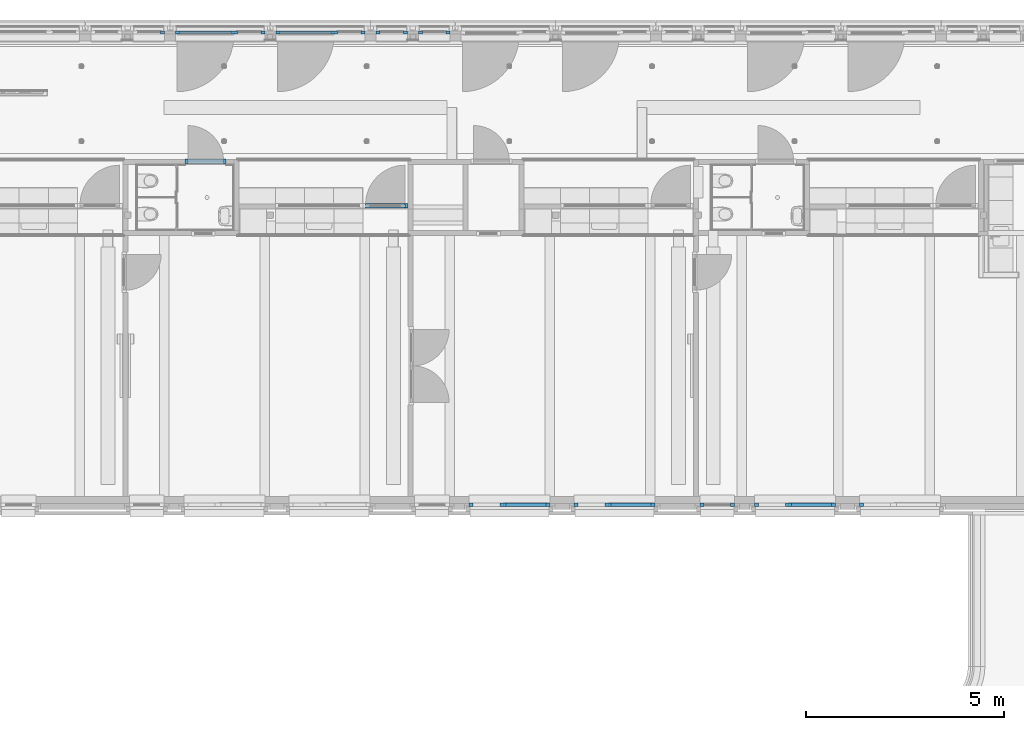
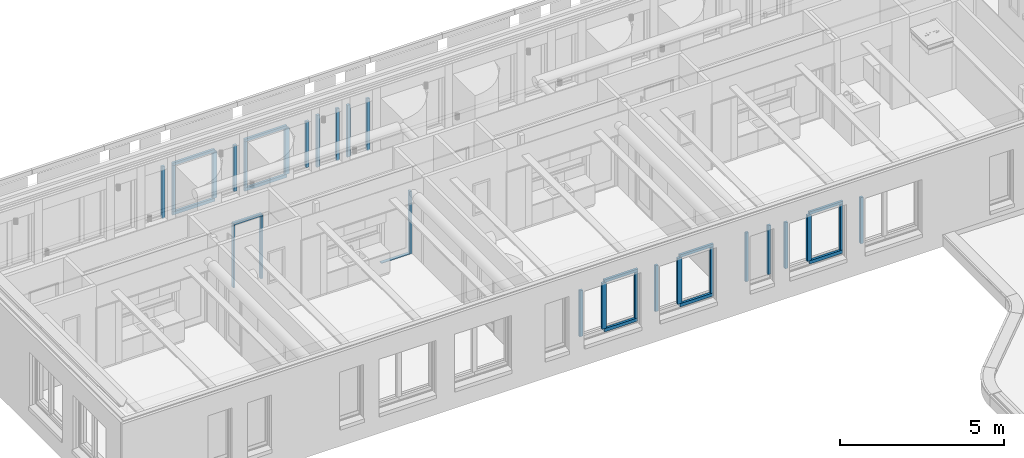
# One storey, part 15 of 128: 38 members, 12 elements without a shape of their own.
"""IFC2X3 building model written with IfcOpenShell, lengths in millimetres."""

from ifc_helpers import new_model, entity, si_unit, converted_unit, derived_unit, direction, frame, frame_2d, origin, origin_2d_with_axis, place, context, subcontext, project, spatial, rectangle, extrude, source, transform, mapped, material, type_object, type_shapes, element, aggregate, save


model = new_model("IFC2X3")

# Units and contexts
model_context = context("Model", 3, precision=0.01, world=origin(), true_north=direction((6.123031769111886e-17, 1.0)))
body_context = subcontext(model_context, "Body", "Model", "MODEL_VIEW")
ifc_project = project(units=[si_unit("LENGTHUNIT", "METRE", prefix="MILLI"), si_unit("AREAUNIT", "SQUARE_METRE"), si_unit("VOLUMEUNIT", "CUBIC_METRE"), converted_unit("PLANEANGLEUNIT", "DEGREE", entity("IfcRatioMeasure", 0.017453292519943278), si_unit("PLANEANGLEUNIT", "RADIAN"), dimensions=[0, 0, 0, 0, 0, 0, 0]), si_unit("MASSUNIT", "GRAM", prefix="KILO"), derived_unit("MASSDENSITYUNIT", [(si_unit("MASSUNIT", "GRAM", prefix="KILO"), 1), (si_unit("LENGTHUNIT", "METRE"), -3)]), derived_unit("IONCONCENTRATIONUNIT", [(si_unit("MASSUNIT", "GRAM", prefix="KILO"), 1), (si_unit("LENGTHUNIT", "METRE"), -3)]), derived_unit("MOMENTOFINERTIAUNIT", [(si_unit("LENGTHUNIT", "METRE"), 4)]), si_unit("TIMEUNIT", "SECOND"), si_unit("FREQUENCYUNIT", "HERTZ"), si_unit("THERMODYNAMICTEMPERATUREUNIT", "DEGREE_CELSIUS"), derived_unit("THERMALTRANSMITTANCEUNIT", [(si_unit("MASSUNIT", "GRAM", prefix="KILO"), 1), (si_unit("THERMODYNAMICTEMPERATUREUNIT", "KELVIN"), -1), (si_unit("TIMEUNIT", "SECOND"), -3)]), derived_unit("THERMALCONDUCTANCEUNIT", [(si_unit("MASSUNIT", "GRAM", prefix="KILO"), 1), (si_unit("THERMODYNAMICTEMPERATUREUNIT", "KELVIN"), -1), (si_unit("TIMEUNIT", "SECOND"), -3), (si_unit("LENGTHUNIT", "METRE"), 1)]), derived_unit("VOLUMETRICFLOWRATEUNIT", [(si_unit("LENGTHUNIT", "METRE"), 3), (si_unit("TIMEUNIT", "SECOND"), -1)]), derived_unit("MASSFLOWRATEUNIT", [(si_unit("MASSUNIT", "GRAM", prefix="KILO"), 1), (si_unit("TIMEUNIT", "SECOND"), -1)]), derived_unit("ROTATIONALFREQUENCYUNIT", [(si_unit("TIMEUNIT", "SECOND"), -1)]), si_unit("ELECTRICCURRENTUNIT", "AMPERE"), si_unit("ELECTRICVOLTAGEUNIT", "VOLT"), si_unit("POWERUNIT", "WATT"), si_unit("FORCEUNIT", "NEWTON", prefix="KILO"), si_unit("ILLUMINANCEUNIT", "LUX"), si_unit("LUMINOUSFLUXUNIT", "LUMEN"), si_unit("LUMINOUSINTENSITYUNIT", "CANDELA"), derived_unit("USERDEFINED", [(si_unit("MASSUNIT", "GRAM", prefix="KILO"), -1), (si_unit("LENGTHUNIT", "METRE"), -2), (si_unit("TIMEUNIT", "SECOND"), 3), (si_unit("LUMINOUSFLUXUNIT", "LUMEN"), 1)]), derived_unit("USERDEFINED", [(si_unit("MASSUNIT", "GRAM", prefix="KILO"), 1), (si_unit("TIMEUNIT", "SECOND"), -3), (si_unit("LENGTHUNIT", "METRE"), 3), (si_unit("ELECTRICCURRENTUNIT", "AMPERE"), -2)]), derived_unit("SOUNDPOWERUNIT", [(si_unit("MASSUNIT", "GRAM", prefix="KILO"), 1), (si_unit("TIMEUNIT", "SECOND"), -3), (si_unit("LENGTHUNIT", "METRE"), 2)]), derived_unit("SOUNDPRESSUREUNIT", [(si_unit("MASSUNIT", "GRAM", prefix="KILO"), 1), (si_unit("LENGTHUNIT", "METRE"), -1), (si_unit("TIMEUNIT", "SECOND"), -2)]), derived_unit("LINEARVELOCITYUNIT", [(si_unit("LENGTHUNIT", "METRE"), 1), (si_unit("TIMEUNIT", "SECOND"), -1)]), si_unit("PRESSUREUNIT", "PASCAL"), derived_unit("USERDEFINED", [(si_unit("MASSUNIT", "GRAM", prefix="KILO"), 1), (si_unit("LENGTHUNIT", "METRE"), -2), (si_unit("TIMEUNIT", "SECOND"), -2)]), derived_unit("LINEARFORCEUNIT", [(si_unit("MASSUNIT", "GRAM", prefix="KILO"), 1), (si_unit("TIMEUNIT", "SECOND"), -2)]), derived_unit("PLANARFORCEUNIT", [(si_unit("MASSUNIT", "GRAM", prefix="KILO"), 1), (si_unit("LENGTHUNIT", "METRE"), -1), (si_unit("TIMEUNIT", "SECOND"), -2)]), derived_unit("SPECIFICHEATCAPACITYUNIT", [(si_unit("THERMODYNAMICTEMPERATUREUNIT", "KELVIN"), -1), (si_unit("LENGTHUNIT", "METRE"), 2), (si_unit("TIMEUNIT", "SECOND"), -2)]), derived_unit("HEATINGVALUEUNIT", [(si_unit("LENGTHUNIT", "METRE"), 2), (si_unit("TIMEUNIT", "SECOND"), -2)]), derived_unit("VAPORPERMEABILITYUNIT", [(si_unit("LENGTHUNIT", "METRE"), -1), (si_unit("TIMEUNIT", "SECOND"), 1)]), derived_unit("DYNAMICVISCOSITYUNIT", [(si_unit("MASSUNIT", "GRAM", prefix="KILO"), 1), (si_unit("TIMEUNIT", "SECOND"), -1), (si_unit("LENGTHUNIT", "METRE"), -1)]), derived_unit("THERMALEXPANSIONCOEFFICIENTUNIT", [(si_unit("THERMODYNAMICTEMPERATUREUNIT", "KELVIN"), -1)]), derived_unit("MODULUSOFELASTICITYUNIT", [(si_unit("MASSUNIT", "GRAM", prefix="KILO"), 1), (si_unit("LENGTHUNIT", "METRE"), -1), (si_unit("TIMEUNIT", "SECOND"), -2)]), derived_unit("ISOTHERMALMOISTURECAPACITYUNIT", [(si_unit("LENGTHUNIT", "METRE"), 3), (si_unit("MASSUNIT", "GRAM", prefix="KILO"), -1)]), derived_unit("MOISTUREDIFFUSIVITYUNIT", [(si_unit("TIMEUNIT", "SECOND"), -1), (si_unit("LENGTHUNIT", "METRE"), 2)])], contexts=[model_context])

# Site, building, storey
site_placement = place(None, frame((0.0, 300.0, 0.0)))
site = spatial("IfcSite", under=ifc_project, at=site_placement, Name="<Kadastrale nummers>", CompositionType="ELEMENT")
building_placement = place(site_placement, origin())
building = spatial("IfcBuilding", under=site, at=building_placement, CompositionType="ELEMENT")
storey_placement = place(building_placement, frame((0.0, 0.0, 3560.0000331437)))
storey = spatial("IfcBuildingStorey", under=building, at=storey_placement, Name="01 eerste verdieping", CompositionType="ELEMENT", Elevation=3560.0000331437)

# Curtain wall, member
curtain_wall_type_1 = type_object("IfcCurtainWallType", Name="Curtain Wall:Merk H09", PredefinedType="NOTDEFINED")
curtain_wall_1_placement = place(storey_placement, frame((0.0, 0.0, -3560.0000331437)))
curtain_wall_1 = element("IfcCurtainWall", 1, at=curtain_wall_1_placement, inside=storey, type_object=curtain_wall_type_1, Name="Curtain Wall:Merk H09", ObjectType="Curtain Wall:Merk H09")
ifc_material_1 = material(Name="ISR_HPL")
member_type_1 = type_object("IfcMemberType", Name="Rectangular Mullion:31_CWM_067x114", PredefinedType="MULLION", material=ifc_material_1)
shared_shape_1 = source(origin(), body_context, "Body", "SweptSolid", [
    extrude(rectangle(XDim=113.99999999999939, YDim=67.0, at=origin_2d_with_axis()), frame((-33.5, -57.0, -2323.0), z_axis=(0.0, 0.0, 1.0), x_axis=(0.0, -1.0, 0.0)), (0.0, 0.0, 1.0), 2323.0),
])
type_shapes(member_type_1, [shared_shape_1])
member_1_placement = place(curtain_wall_1_placement, frame((17270.0, 45476.0, 3650.0000350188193), z_axis=(0.0, 0.0, -1.0), x_axis=(1.0, 0.0, 0.0)))
member_1 = element("IfcMember", 2, at=member_1_placement, type_object=member_type_1, material=ifc_material_1, Name="Rectangular Mullion:31_CWM_067x114", ObjectType="Rectangular Mullion:31_CWM_067x114", context=body_context, shape_type="MappedRepresentation", body=[
    mapped(shared_shape_1, transform((0.0, 0.0, 0.0), scale=1.0)),
])

# Curtain wall, members
curtain_wall_type_2 = type_object("IfcCurtainWallType", Name="Curtain Wall:Merk H01", PredefinedType="NOTDEFINED")
curtain_wall_2_placement = place(storey_placement, frame((0.0, 0.0, -3560.0000331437)))
curtain_wall_2 = element("IfcCurtainWall", 3, at=curtain_wall_2_placement, inside=storey, type_object=curtain_wall_type_2, Name="Curtain Wall:Merk H01", ObjectType="Curtain Wall:Merk H01")
member_type_2 = type_object("IfcMemberType", Name="Rectangular Mullion:31_CWM_067x114", PredefinedType="MULLION", material=ifc_material_1)
shared_shape_2 = source(origin(), body_context, "Body", "SweptSolid", [
    extrude(rectangle(XDim=113.99999999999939, YDim=67.0, at=origin_2d_with_axis()), frame((-33.5, 57.0, -2323.0), z_axis=(0.0, 0.0, 1.0), x_axis=(0.0, -1.0, 0.0)), (0.0, 0.0, 1.0), 2323.0),
])
type_shapes(member_type_2, [shared_shape_2])
member_2_placement = place(curtain_wall_2_placement, frame((11652.001376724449, 46606.0, 3650.00003501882), z_axis=(0.0, 0.0, -1.0), x_axis=(-1.0, 0.0, 0.0)))
member_2 = element("IfcMember", 4, at=member_2_placement, type_object=member_type_2, material=ifc_material_1, Name="Rectangular Mullion:31_CWM_067x114", ObjectType="Rectangular Mullion:31_CWM_067x114", context=body_context, shape_type="MappedRepresentation", body=[
    mapped(shared_shape_2, transform((0.0, 0.0, 0.0), scale=1.0)),
])
member_type_3 = type_object("IfcMemberType", Name="Rectangular Mullion:31_CWM_067x114", PredefinedType="MULLION", material=ifc_material_1)
shared_shape_3 = source(origin(), body_context, "Body", "SweptSolid", [
    extrude(rectangle(XDim=113.99999999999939, YDim=67.0, at=origin_2d_with_axis()), frame((-33.5, 57.0, -2323.0), z_axis=(0.0, 0.0, 1.0), x_axis=(0.0, -1.0, 0.0)), (0.0, 0.0, 1.0), 2323.0),
])
type_shapes(member_type_3, [shared_shape_3])
member_3_placement = place(curtain_wall_2_placement, frame((12686.001376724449, 46606.0, 5973.0000331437)))
member_3 = element("IfcMember", 5, at=member_3_placement, type_object=member_type_3, material=ifc_material_1, Name="Rectangular Mullion:31_CWM_067x114", ObjectType="Rectangular Mullion:31_CWM_067x114", context=body_context, shape_type="MappedRepresentation", body=[
    mapped(shared_shape_3, transform((0.0, 0.0, 0.0), scale=1.0)),
])
member_type_4 = type_object("IfcMemberType", Name="Rectangular Mullion:31_CWM_067x114", PredefinedType="MULLION", material=ifc_material_1)
shared_shape_4 = source(origin(), body_context, "Body", "SweptSolid", [
    extrude(rectangle(XDim=113.99999999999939, YDim=67.0, at=origin_2d_with_axis()), frame((-33.5, 57.0, -1034.0), z_axis=(0.0, 0.0, 1.0), x_axis=(0.0, -1.0, 0.0)), (0.0, 0.0, 1.0), 1033.9999999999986),
])
type_shapes(member_type_4, [shared_shape_4])
member_4_placement = place(curtain_wall_2_placement, frame((11652.001376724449, 46606.0, 6040.0000331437), z_axis=(-1.0, 0.0, 0.0), x_axis=(0.0, 0.0, 1.0)))
member_4 = element("IfcMember", 6, at=member_4_placement, type_object=member_type_4, material=ifc_material_1, Name="Rectangular Mullion:31_CWM_067x114", ObjectType="Rectangular Mullion:31_CWM_067x114", context=body_context, shape_type="MappedRepresentation", body=[
    mapped(shared_shape_4, transform((0.0, 0.0, 0.0), scale=1.0)),
])
aggregate(curtain_wall_2, [member_4, member_2, member_3])

# Member
ifc_material_2 = material(Name="ISR_Kunststof_grijs")
member_type_5 = type_object("IfcMemberType", Name="Rectangular Mullion:31_CWM_020x114", PredefinedType="MULLION", material=ifc_material_2)
shared_shape_5 = source(origin(), body_context, "Body", "SweptSolid", [
    extrude(rectangle(XDim=113.9999999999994, YDim=20.0, at=frame_2d((1.0658141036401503e-14, 0.0), x_axis=(1.0, 0.0))), frame((-10.0, -57.0, -1000.0), z_axis=(0.0, 0.0, 1.0), x_axis=(0.0, -1.0, 0.0)), (0.0, 0.0, 1.0), 999.999999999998),
])
type_shapes(member_type_5, [shared_shape_5])
member_5_placement = place(curtain_wall_1_placement, frame((16203.0, 45476.0, 3650.0000350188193), z_axis=(-1.0, 0.0, 0.0), x_axis=(0.0, 0.0, -1.0)))
member_5 = element("IfcMember", 7, at=member_5_placement, type_object=member_type_5, material=ifc_material_2, Name="Rectangular Mullion:31_CWM_020x114", ObjectType="Rectangular Mullion:31_CWM_020x114", context=body_context, shape_type="MappedRepresentation", body=[
    mapped(shared_shape_5, transform((0.0, 0.0, 0.0), scale=1.0)),
])

aggregate(curtain_wall_1, [member_5, member_1])

# Curtain wall, members
curtain_wall_type_3 = type_object("IfcCurtainWallType", Name="Curtain Wall:K_28", PredefinedType="NOTDEFINED")
curtain_wall_3_placement = place(storey_placement, frame((0.0, 0.0, -3560.0000331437)))
curtain_wall_3 = element("IfcCurtainWall", 8, at=curtain_wall_3_placement, inside=storey, type_object=curtain_wall_type_3, Name="Curtain Wall:K_28", ObjectType="Curtain Wall:K_28")
ifc_material_3 = material(Name="ISR_Kunststof_RAL7006")
member_type_6 = type_object("IfcMemberType", Name="Rectangular Mullion:100x83 Gealan Kubus", PredefinedType="MULLION", material=ifc_material_3)
shared_shape_6 = source(origin(), body_context, "Body", "SweptSolid", [
    extrude(rectangle(XDim=83.0, YDim=100.0, at=origin_2d_with_axis()), frame((-50.0, 41.5, -1810.0), z_axis=(0.0, 0.0, 1.0), x_axis=(0.0, -1.0, 0.0)), (0.0, 0.0, 1.0), 1810.0),
])
type_shapes(member_type_6, [shared_shape_6])
member_6_placement = place(curtain_wall_3_placement, frame((25520.0, 38032.0, 4580.000035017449), z_axis=(0.0, 0.0, -1.0), x_axis=(1.0, 0.0, 0.0)))
member_6 = element("IfcMember", 9, at=member_6_placement, type_object=member_type_6, material=ifc_material_3, Name="Rectangular Mullion:100x83 Gealan Kubus", ObjectType="Rectangular Mullion:100x83 Gealan Kubus", context=body_context, shape_type="MappedRepresentation", body=[
    mapped(shared_shape_6, transform((0.0, 0.0, 0.0), scale=1.0)),
])
member_type_7 = type_object("IfcMemberType", Name="Rectangular Mullion:100x83 Gealan Kubus", PredefinedType="MULLION", material=ifc_material_3)
shared_shape_7 = source(origin(), body_context, "Body", "SweptSolid", [
    extrude(rectangle(XDim=83.0, YDim=100.0, at=origin_2d_with_axis()), frame((-50.0, 41.5, -1810.0), z_axis=(0.0, 0.0, 1.0), x_axis=(0.0, -1.0, 0.0)), (0.0, 0.0, 1.0), 1810.0),
])
type_shapes(member_type_7, [shared_shape_7])
member_7_placement = place(curtain_wall_3_placement, frame((24640.0, 38032.0, 6390.00003501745), z_axis=(0.0, 0.0, 1.0), x_axis=(-1.0, 0.0, 0.0)))
member_7 = element("IfcMember", 10, at=member_7_placement, type_object=member_type_7, material=ifc_material_3, Name="Rectangular Mullion:100x83 Gealan Kubus", ObjectType="Rectangular Mullion:100x83 Gealan Kubus", context=body_context, shape_type="MappedRepresentation", body=[
    mapped(shared_shape_7, transform((0.0, 0.0, 0.0), scale=1.0)),
])
aggregate(curtain_wall_3, [member_6, member_7])

# Curtain wall, member
curtain_wall_type_4 = type_object("IfcCurtainWallType", Name="Curtain Wall:K_29", PredefinedType="NOTDEFINED")
curtain_wall_4_placement = place(storey_placement, frame((0.0, 0.0, -3560.0000331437)))
curtain_wall_4 = element("IfcCurtainWall", 11, at=curtain_wall_4_placement, inside=storey, type_object=curtain_wall_type_4, Name="Curtain Wall:K_29", ObjectType="Curtain Wall:K_29")
member_type_8 = type_object("IfcMemberType", Name="Rectangular Mullion:100x83 Gealan Kubus", PredefinedType="MULLION", material=ifc_material_3)
shared_shape_8 = source(origin(), body_context, "Body", "SweptSolid", [
    extrude(rectangle(XDim=83.0, YDim=100.0, at=origin_2d_with_axis()), frame((-50.0, 41.5, -1929.9999649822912), z_axis=(0.0, 0.0, 1.0), x_axis=(0.0, -1.0, 0.0)), (0.0, 0.0, 1.0), 1929.9999649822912),
])
type_shapes(member_type_8, [shared_shape_8])
member_8_placement = place(curtain_wall_4_placement, frame((17540.0, 49868.0, 4460.000035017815), z_axis=(0.0, 0.0, -1.0), x_axis=(-1.0, 0.0, 0.0)))
member_8 = element("IfcMember", 12, at=member_8_placement, type_object=member_type_8, material=ifc_material_3, Name="Rectangular Mullion:100x83 Gealan Kubus", ObjectType="Rectangular Mullion:100x83 Gealan Kubus", context=body_context, shape_type="MappedRepresentation", body=[
    mapped(shared_shape_8, transform((0.0, 0.0, 0.0), scale=1.0)),
])

curtain_wall_5_placement = place(storey_placement, frame((0.0, 0.0, -3560.0000331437)))
curtain_wall_5 = element("IfcCurtainWall", 13, at=curtain_wall_5_placement, inside=storey, type_object=curtain_wall_type_4, Name="Curtain Wall:K_29", ObjectType="Curtain Wall:K_29")
member_9_placement = place(curtain_wall_5_placement, frame((16470.0, 49868.0, 4460.000035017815), z_axis=(0.0, 0.0, -1.0), x_axis=(-1.0, 0.0, 0.0)))
member_9 = element("IfcMember", 14, at=member_9_placement, type_object=member_type_8, material=ifc_material_3, Name="Rectangular Mullion:100x83 Gealan Kubus", ObjectType="Rectangular Mullion:100x83 Gealan Kubus", context=body_context, shape_type="MappedRepresentation", body=[
    mapped(shared_shape_8, transform((0.0, 0.0, 0.0), scale=1.0)),
])

# Member
member_type_9 = type_object("IfcMemberType", Name="Rectangular Mullion:100x83 Gealan Kubus", PredefinedType="MULLION", material=ifc_material_3)
shared_shape_9 = source(origin(), body_context, "Body", "SweptSolid", [
    extrude(rectangle(XDim=83.0, YDim=100.0, at=origin_2d_with_axis()), frame((-50.0, 41.5, -1929.9999649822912), z_axis=(0.0, 0.0, 1.0), x_axis=(0.0, -1.0, 0.0)), (0.0, 0.0, 1.0), 1929.9999649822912),
])
type_shapes(member_type_9, [shared_shape_9])
member_10_placement = place(curtain_wall_4_placement, frame((18330.0, 49868.0, 6390.0)))
member_10 = element("IfcMember", 15, at=member_10_placement, type_object=member_type_9, material=ifc_material_3, Name="Rectangular Mullion:100x83 Gealan Kubus", ObjectType="Rectangular Mullion:100x83 Gealan Kubus", context=body_context, shape_type="MappedRepresentation", body=[
    mapped(shared_shape_9, transform((0.0, 0.0, 0.0), scale=1.0)),
])

aggregate(curtain_wall_4, [member_8, member_10])

member_11_placement = place(curtain_wall_5_placement, frame((17260.0, 49868.0, 6390.0)))
member_11 = element("IfcMember", 16, at=member_11_placement, type_object=member_type_9, material=ifc_material_3, Name="Rectangular Mullion:100x83 Gealan Kubus", ObjectType="Rectangular Mullion:100x83 Gealan Kubus", context=body_context, shape_type="MappedRepresentation", body=[
    mapped(shared_shape_9, transform((0.0, 0.0, 0.0), scale=1.0)),
])

aggregate(curtain_wall_5, [member_9, member_11])

# Curtain wall, member
curtain_wall_6_placement = place(storey_placement, frame((0.0, 0.0, -3560.0000331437)))
curtain_wall_6 = element("IfcCurtainWall", 17, at=curtain_wall_6_placement, inside=storey, type_object=curtain_wall_type_4, Name="Curtain Wall:K_29", ObjectType="Curtain Wall:K_29")
member_12_placement = place(curtain_wall_6_placement, frame((11130.0, 49868.0, 6390.0)))
member_12 = element("IfcMember", 18, at=member_12_placement, type_object=member_type_9, material=ifc_material_3, Name="Rectangular Mullion:100x83 Gealan Kubus", ObjectType="Rectangular Mullion:100x83 Gealan Kubus", context=body_context, shape_type="MappedRepresentation", body=[
    mapped(shared_shape_9, transform((0.0, 0.0, 0.0), scale=1.0)),
])
aggregate(curtain_wall_6, [member_12])

curtain_wall_type_5 = type_object("IfcCurtainWallType", Name="Curtain Wall:K_22", PredefinedType="NOTDEFINED")
curtain_wall_7_placement = place(storey_placement, frame((0.0, 0.0, -3560.0000331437)))
curtain_wall_7 = element("IfcCurtainWall", 19, at=curtain_wall_7_placement, inside=storey, type_object=curtain_wall_type_5, Name="Curtain Wall:K_22", ObjectType="Curtain Wall:K_22")
member_type_10 = type_object("IfcMemberType", Name="Rectangular Mullion:100x83 Gealan Kubus", PredefinedType="MULLION", material=ifc_material_3)
shared_shape_10 = source(origin(), body_context, "Body", "SweptSolid", [
    extrude(rectangle(XDim=83.0, YDim=100.0, at=origin_2d_with_axis()), frame((-50.0, 41.5, -1483.0), z_axis=(0.0, 0.0, 1.0), x_axis=(0.0, -1.0, 0.0)), (0.0, 0.0, 1.0), 1483.0000000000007),
])
type_shapes(member_type_10, [shared_shape_10])
member_13_placement = place(curtain_wall_7_placement, frame((13940.0, 49868.0, 6390.0), z_axis=(-1.0, 0.0, 0.0), x_axis=(0.0, 0.0, 1.0)))
member_13 = element("IfcMember", 20, at=member_13_placement, type_object=member_type_10, material=ifc_material_3, Name="Rectangular Mullion:100x83 Gealan Kubus", ObjectType="Rectangular Mullion:100x83 Gealan Kubus", context=body_context, shape_type="MappedRepresentation", body=[
    mapped(shared_shape_10, transform((0.0, 0.0, 0.0), scale=1.0)),
])

curtain_wall_8_placement = place(storey_placement, frame((0.0, 0.0, -3560.0000331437)))
curtain_wall_8 = element("IfcCurtainWall", 21, at=curtain_wall_8_placement, inside=storey, type_object=curtain_wall_type_5, Name="Curtain Wall:K_22", ObjectType="Curtain Wall:K_22")
member_14_placement = place(curtain_wall_8_placement, frame((11410.0, 49868.0, 6390.0), z_axis=(-1.0, 0.0, 0.0), x_axis=(0.0, 0.0, 1.0)))
member_14 = element("IfcMember", 22, at=member_14_placement, type_object=member_type_10, material=ifc_material_3, Name="Rectangular Mullion:100x83 Gealan Kubus", ObjectType="Rectangular Mullion:100x83 Gealan Kubus", context=body_context, shape_type="MappedRepresentation", body=[
    mapped(shared_shape_10, transform((0.0, 0.0, 0.0), scale=1.0)),
])

# Member
member_type_11 = type_object("IfcMemberType", Name="Rectangular Mullion:100x83 Gealan Kubus", PredefinedType="MULLION", material=ifc_material_3)
shared_shape_11 = source(origin(), body_context, "Body", "SweptSolid", [
    extrude(rectangle(XDim=82.99999999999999, YDim=100.0, at=origin_2d_with_axis()), frame((-50.0, 41.49999999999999, -1709.9999649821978), z_axis=(0.0, 0.0, 1.0), x_axis=(0.0, -1.0, 0.0)), (0.0, 0.0, 1.0), 1709.9999649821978),
])
type_shapes(member_type_11, [shared_shape_11])
member_15_placement = place(curtain_wall_7_placement, frame((13940.0, 49868.0, 4580.0000331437), z_axis=(0.0, 0.0, -1.0), x_axis=(-1.0, 0.0, 0.0)))
member_15 = element("IfcMember", 23, at=member_15_placement, type_object=member_type_11, material=ifc_material_3, Name="Rectangular Mullion:100x83 Gealan Kubus", ObjectType="Rectangular Mullion:100x83 Gealan Kubus", context=body_context, shape_type="MappedRepresentation", body=[
    mapped(shared_shape_11, transform((0.0, 0.0, 0.0), scale=1.0)),
])

member_16_placement = place(curtain_wall_8_placement, frame((11410.0, 49868.0, 4580.0000331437), z_axis=(0.0, 0.0, -1.0), x_axis=(-1.0, 0.0, 0.0)))
member_16 = element("IfcMember", 24, at=member_16_placement, type_object=member_type_11, material=ifc_material_3, Name="Rectangular Mullion:100x83 Gealan Kubus", ObjectType="Rectangular Mullion:100x83 Gealan Kubus", context=body_context, shape_type="MappedRepresentation", body=[
    mapped(shared_shape_11, transform((0.0, 0.0, 0.0), scale=1.0)),
])

# Curtain wall, member
curtain_wall_type_6 = type_object("IfcCurtainWallType", Name="Curtain Wall:K_24", PredefinedType="NOTDEFINED")
curtain_wall_9_placement = place(storey_placement, frame((0.0, 0.0, -3560.0000331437)))
curtain_wall_9 = element("IfcCurtainWall", 25, at=curtain_wall_9_placement, inside=storey, type_object=curtain_wall_type_6, Name="Curtain Wall:K_24", ObjectType="Curtain Wall:K_24")
member_17_placement = place(curtain_wall_9_placement, frame((23510.0, 38031.99862327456, 4580.000035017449), z_axis=(0.0, 0.0, -1.0), x_axis=(1.0, 0.0, 0.0)))
member_17 = element("IfcMember", 26, at=member_17_placement, type_object=member_type_11, material=ifc_material_3, Name="Rectangular Mullion:100x83 Gealan Kubus", ObjectType="Rectangular Mullion:100x83 Gealan Kubus", context=body_context, shape_type="MappedRepresentation", body=[
    mapped(shared_shape_11, transform((0.0, 0.0, 0.0), scale=1.0)),
])

curtain_wall_10_placement = place(storey_placement, frame((0.0, 0.0, -3560.0000331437)))
curtain_wall_10 = element("IfcCurtainWall", 27, at=curtain_wall_10_placement, inside=storey, type_object=curtain_wall_type_6, Name="Curtain Wall:K_24", ObjectType="Curtain Wall:K_24")
member_18_placement = place(curtain_wall_10_placement, frame((20860.0, 38031.99862327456, 4580.000035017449), z_axis=(0.0, 0.0, -1.0), x_axis=(1.0, 0.0, 0.0)))
member_18 = element("IfcMember", 28, at=member_18_placement, type_object=member_type_11, material=ifc_material_3, Name="Rectangular Mullion:100x83 Gealan Kubus", ObjectType="Rectangular Mullion:100x83 Gealan Kubus", context=body_context, shape_type="MappedRepresentation", body=[
    mapped(shared_shape_11, transform((0.0, 0.0, 0.0), scale=1.0)),
])

curtain_wall_11_placement = place(storey_placement, frame((0.0, 0.0, -3560.0000331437)))
curtain_wall_11 = element("IfcCurtainWall", 29, at=curtain_wall_11_placement, inside=storey, type_object=curtain_wall_type_6, Name="Curtain Wall:K_24", ObjectType="Curtain Wall:K_24")
member_19_placement = place(curtain_wall_11_placement, frame((28060.0, 38031.99862327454, 4580.000035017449), z_axis=(0.0, 0.0, -1.0), x_axis=(1.0, 0.0, 0.0)))
member_19 = element("IfcMember", 30, at=member_19_placement, type_object=member_type_11, material=ifc_material_3, Name="Rectangular Mullion:100x83 Gealan Kubus", ObjectType="Rectangular Mullion:100x83 Gealan Kubus", context=body_context, shape_type="MappedRepresentation", body=[
    mapped(shared_shape_11, transform((0.0, 0.0, 0.0), scale=1.0)),
])

# Member
member_type_12 = type_object("IfcMemberType", Name="Rectangular Mullion:100x83 Gealan Kubus", PredefinedType="MULLION", material=ifc_material_3)
shared_shape_12 = source(origin(), body_context, "Body", "SweptSolid", [
    extrude(rectangle(XDim=83.00000000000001, YDim=100.0, at=origin_2d_with_axis()), frame((-50.0, 41.50000000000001, -1709.9999649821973), z_axis=(0.0, 0.0, 1.0), x_axis=(0.0, -1.0, 0.0)), (0.0, 0.0, 1.0), 1709.9999649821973),
])
type_shapes(member_type_12, [shared_shape_12])
member_20_placement = place(curtain_wall_7_placement, frame((16190.0, 49868.0, 6290.0)))
member_20 = element("IfcMember", 31, at=member_20_placement, type_object=member_type_12, material=ifc_material_3, Name="Rectangular Mullion:100x83 Gealan Kubus", ObjectType="Rectangular Mullion:100x83 Gealan Kubus", context=body_context, shape_type="MappedRepresentation", body=[
    mapped(shared_shape_12, transform((0.0, 0.0, 0.0), scale=1.0)),
])

member_21_placement = place(curtain_wall_8_placement, frame((13660.0, 49868.0, 6290.0)))
member_21 = element("IfcMember", 32, at=member_21_placement, type_object=member_type_12, material=ifc_material_3, Name="Rectangular Mullion:100x83 Gealan Kubus", ObjectType="Rectangular Mullion:100x83 Gealan Kubus", context=body_context, shape_type="MappedRepresentation", body=[
    mapped(shared_shape_12, transform((0.0, 0.0, 0.0), scale=1.0)),
])

member_22_placement = place(curtain_wall_9_placement, frame((21470.0, 38031.998623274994, 6290.000035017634), z_axis=(0.0, 0.0, 1.0), x_axis=(-1.0, 0.0, 0.0)))
member_22 = element("IfcMember", 33, at=member_22_placement, type_object=member_type_12, material=ifc_material_3, Name="Rectangular Mullion:100x83 Gealan Kubus", ObjectType="Rectangular Mullion:100x83 Gealan Kubus", context=body_context, shape_type="MappedRepresentation", body=[
    mapped(shared_shape_12, transform((0.0, 0.0, 0.0), scale=1.0)),
])

member_23_placement = place(curtain_wall_10_placement, frame((18820.0, 38031.998623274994, 6290.000035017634), z_axis=(0.0, 0.0, 1.0), x_axis=(-1.0, 0.0, 0.0)))
member_23 = element("IfcMember", 34, at=member_23_placement, type_object=member_type_12, material=ifc_material_3, Name="Rectangular Mullion:100x83 Gealan Kubus", ObjectType="Rectangular Mullion:100x83 Gealan Kubus", context=body_context, shape_type="MappedRepresentation", body=[
    mapped(shared_shape_12, transform((0.0, 0.0, 0.0), scale=1.0)),
])

# Curtain wall, member
curtain_wall_12_placement = place(storey_placement, frame((0.0, 0.0, -3560.0000331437)))
curtain_wall_12 = element("IfcCurtainWall", 35, at=curtain_wall_12_placement, inside=storey, type_object=curtain_wall_type_6, Name="Curtain Wall:K_24", ObjectType="Curtain Wall:K_24")
member_24_placement = place(curtain_wall_12_placement, frame((28670.0, 38031.998623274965, 6290.000035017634), z_axis=(0.0, 0.0, 1.0), x_axis=(-1.0, 0.0, 0.0)))
member_24 = element("IfcMember", 36, at=member_24_placement, type_object=member_type_12, material=ifc_material_3, Name="Rectangular Mullion:100x83 Gealan Kubus", ObjectType="Rectangular Mullion:100x83 Gealan Kubus", context=body_context, shape_type="MappedRepresentation", body=[
    mapped(shared_shape_12, transform((0.0, 0.0, 0.0), scale=1.0)),
])
aggregate(curtain_wall_12, [member_24])

# Member
member_25_placement = place(curtain_wall_11_placement, frame((26020.0, 38031.99862327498, 6290.000035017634), z_axis=(0.0, 0.0, 1.0), x_axis=(-1.0, 0.0, 0.0)))
member_25 = element("IfcMember", 37, at=member_25_placement, type_object=member_type_12, material=ifc_material_3, Name="Rectangular Mullion:100x83 Gealan Kubus", ObjectType="Rectangular Mullion:100x83 Gealan Kubus", context=body_context, shape_type="MappedRepresentation", body=[
    mapped(shared_shape_12, transform((0.0, 0.0, 0.0), scale=1.0)),
])

member_type_13 = type_object("IfcMemberType", Name="Rectangular Mullion:120x83 Gealan Kubus", PredefinedType="MULLION", material=ifc_material_3)
shared_shape_13 = source(origin(), body_context, "Body", "SweptSolid", [
    extrude(rectangle(XDim=83.00000000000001, YDim=120.0, at=origin_2d_with_axis()), frame((-60.0, 41.50000000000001, -1483.0), z_axis=(0.0, 0.0, 1.0), x_axis=(0.0, -1.0, 0.0)), (0.0, 0.0, 1.0), 1483.0000000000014),
])
type_shapes(member_type_13, [shared_shape_13])
member_26_placement = place(curtain_wall_7_placement, frame((15423.0, 49868.0, 4460.000035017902), z_axis=(1.0, 0.0, 0.0), x_axis=(0.0, 0.0, -1.0)))
member_26 = element("IfcMember", 38, at=member_26_placement, type_object=member_type_13, material=ifc_material_3, Name="Rectangular Mullion:120x83 Gealan Kubus", ObjectType="Rectangular Mullion:120x83 Gealan Kubus", context=body_context, shape_type="MappedRepresentation", body=[
    mapped(shared_shape_13, transform((0.0, 0.0, 0.0), scale=1.0)),
])

member_27_placement = place(curtain_wall_8_placement, frame((12893.0, 49868.0, 4460.000035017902), z_axis=(1.0, 0.0, 0.0), x_axis=(0.0, 0.0, -1.0)))
member_27 = element("IfcMember", 39, at=member_27_placement, type_object=member_type_13, material=ifc_material_3, Name="Rectangular Mullion:120x83 Gealan Kubus", ObjectType="Rectangular Mullion:120x83 Gealan Kubus", context=body_context, shape_type="MappedRepresentation", body=[
    mapped(shared_shape_13, transform((0.0, 0.0, 0.0), scale=1.0)),
])

member_type_14 = type_object("IfcMemberType", Name="Rectangular Mullion:154x83 Gealan Kubus", PredefinedType="MULLION", material=ifc_material_3)
shared_shape_14 = source(origin(), body_context, "Body", "SweptSolid", [
    extrude(rectangle(XDim=83.00000000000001, YDim=154.0, at=origin_2d_with_axis()), frame((0.0, 41.50000000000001, -1710.0), z_axis=(0.0, 0.0, 1.0), x_axis=(0.0, -1.0, 0.0)), (0.0, 0.0, 1.0), 1710.0000000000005),
])
type_shapes(member_type_14, [shared_shape_14])
member_28_placement = place(curtain_wall_7_placement, frame((15423.0, 49868.0, 4580.0000331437), z_axis=(0.0, 0.0, -1.0), x_axis=(-1.0, 0.0, 0.0)))
member_28 = element("IfcMember", 40, at=member_28_placement, type_object=member_type_14, material=ifc_material_3, Name="Rectangular Mullion:154x83 Gealan Kubus", ObjectType="Rectangular Mullion:154x83 Gealan Kubus", context=body_context, shape_type="MappedRepresentation", body=[
    mapped(shared_shape_14, transform((0.0, 0.0, 0.0), scale=1.0)),
])

aggregate(curtain_wall_7, [member_13, member_15, member_20, member_26, member_28])

member_29_placement = place(curtain_wall_8_placement, frame((12893.0, 49868.0, 4580.0000331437), z_axis=(0.0, 0.0, -1.0), x_axis=(-1.0, 0.0, 0.0)))
member_29 = element("IfcMember", 41, at=member_29_placement, type_object=member_type_14, material=ifc_material_3, Name="Rectangular Mullion:154x83 Gealan Kubus", ObjectType="Rectangular Mullion:154x83 Gealan Kubus", context=body_context, shape_type="MappedRepresentation", body=[
    mapped(shared_shape_14, transform((0.0, 0.0, 0.0), scale=1.0)),
])

aggregate(curtain_wall_8, [member_14, member_16, member_21, member_27, member_29])

member_30_placement = place(curtain_wall_9_placement, frame((22327.0, 38031.99862327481, 4580.000035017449), z_axis=(0.0, 0.0, -1.0), x_axis=(1.0, 0.0, 0.0)))
member_30 = element("IfcMember", 42, at=member_30_placement, type_object=member_type_14, material=ifc_material_3, Name="Rectangular Mullion:154x83 Gealan Kubus", ObjectType="Rectangular Mullion:154x83 Gealan Kubus", context=body_context, shape_type="MappedRepresentation", body=[
    mapped(shared_shape_14, transform((0.0, 0.0, 0.0), scale=1.0)),
])

member_31_placement = place(curtain_wall_10_placement, frame((19677.0, 38031.99862327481, 4580.000035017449), z_axis=(0.0, 0.0, -1.0), x_axis=(1.0, 0.0, 0.0)))
member_31 = element("IfcMember", 43, at=member_31_placement, type_object=member_type_14, material=ifc_material_3, Name="Rectangular Mullion:154x83 Gealan Kubus", ObjectType="Rectangular Mullion:154x83 Gealan Kubus", context=body_context, shape_type="MappedRepresentation", body=[
    mapped(shared_shape_14, transform((0.0, 0.0, 0.0), scale=1.0)),
])

member_32_placement = place(curtain_wall_11_placement, frame((26877.0, 38031.9986232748, 4580.000035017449), z_axis=(0.0, 0.0, -1.0), x_axis=(1.0, 0.0, 0.0)))
member_32 = element("IfcMember", 44, at=member_32_placement, type_object=member_type_14, material=ifc_material_3, Name="Rectangular Mullion:154x83 Gealan Kubus", ObjectType="Rectangular Mullion:154x83 Gealan Kubus", context=body_context, shape_type="MappedRepresentation", body=[
    mapped(shared_shape_14, transform((0.0, 0.0, 0.0), scale=1.0)),
])

member_type_15 = type_object("IfcMemberType", Name="Rectangular Mullion:100x83 Gealan Kubus", PredefinedType="MULLION", material=ifc_material_3)
shared_shape_15 = source(origin(), body_context, "Body", "SweptSolid", [
    extrude(rectangle(XDim=83.0, YDim=100.0, at=origin_2d_with_axis()), frame((-50.0, 41.5, -1183.0), z_axis=(0.0, 0.0, 1.0), x_axis=(0.0, -1.0, 0.0)), (0.0, 0.0, 1.0), 1183.0000000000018),
])
type_shapes(member_type_15, [shared_shape_15])
member_33_placement = place(curtain_wall_9_placement, frame((23510.0, 38031.99862327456, 6390.000035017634), z_axis=(1.0, 0.0, 0.0), x_axis=(0.0, 0.0, 1.0)))
member_33 = element("IfcMember", 45, at=member_33_placement, type_object=member_type_15, material=ifc_material_3, Name="Rectangular Mullion:100x83 Gealan Kubus", ObjectType="Rectangular Mullion:100x83 Gealan Kubus", context=body_context, shape_type="MappedRepresentation", body=[
    mapped(shared_shape_15, transform((0.0, 0.0, 0.0), scale=1.0)),
])

member_34_placement = place(curtain_wall_10_placement, frame((20860.0, 38031.99862327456, 6390.000035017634), z_axis=(1.0, 0.0, 0.0), x_axis=(0.0, 0.0, 1.0)))
member_34 = element("IfcMember", 46, at=member_34_placement, type_object=member_type_15, material=ifc_material_3, Name="Rectangular Mullion:100x83 Gealan Kubus", ObjectType="Rectangular Mullion:100x83 Gealan Kubus", context=body_context, shape_type="MappedRepresentation", body=[
    mapped(shared_shape_15, transform((0.0, 0.0, 0.0), scale=1.0)),
])

member_35_placement = place(curtain_wall_11_placement, frame((28060.0, 38031.99862327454, 6390.000035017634), z_axis=(1.0, 0.0, 0.0), x_axis=(0.0, 0.0, 1.0)))
member_35 = element("IfcMember", 47, at=member_35_placement, type_object=member_type_15, material=ifc_material_3, Name="Rectangular Mullion:100x83 Gealan Kubus", ObjectType="Rectangular Mullion:100x83 Gealan Kubus", context=body_context, shape_type="MappedRepresentation", body=[
    mapped(shared_shape_15, transform((0.0, 0.0, 0.0), scale=1.0)),
])

member_type_16 = type_object("IfcMemberType", Name="Rectangular Mullion:120x83 Gealan Kubus", PredefinedType="MULLION", material=ifc_material_3)
shared_shape_16 = source(origin(), body_context, "Body", "SweptSolid", [
    extrude(rectangle(XDim=83.00000000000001, YDim=120.0, at=origin_2d_with_axis()), frame((-60.0, 41.50000000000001, -1183.0), z_axis=(0.0, 0.0, 1.0), x_axis=(0.0, -1.0, 0.0)), (0.0, 0.0, 1.0), 1183.0000000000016),
])
type_shapes(member_type_16, [shared_shape_16])
member_36_placement = place(curtain_wall_9_placement, frame((22327.0, 38031.99862327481, 4460.000035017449), z_axis=(-1.0, 0.0, 0.0), x_axis=(0.0, 0.0, -1.0)))
member_36 = element("IfcMember", 48, at=member_36_placement, type_object=member_type_16, material=ifc_material_3, Name="Rectangular Mullion:120x83 Gealan Kubus", ObjectType="Rectangular Mullion:120x83 Gealan Kubus", context=body_context, shape_type="MappedRepresentation", body=[
    mapped(shared_shape_16, transform((0.0, 0.0, 0.0), scale=1.0)),
])

aggregate(curtain_wall_9, [member_33, member_17, member_22, member_36, member_30])

member_37_placement = place(curtain_wall_10_placement, frame((19677.0, 38031.99862327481, 4460.000035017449), z_axis=(-1.0, 0.0, 0.0), x_axis=(0.0, 0.0, -1.0)))
member_37 = element("IfcMember", 49, at=member_37_placement, type_object=member_type_16, material=ifc_material_3, Name="Rectangular Mullion:120x83 Gealan Kubus", ObjectType="Rectangular Mullion:120x83 Gealan Kubus", context=body_context, shape_type="MappedRepresentation", body=[
    mapped(shared_shape_16, transform((0.0, 0.0, 0.0), scale=1.0)),
])

aggregate(curtain_wall_10, [member_34, member_18, member_23, member_37, member_31])

member_38_placement = place(curtain_wall_11_placement, frame((26877.0, 38031.9986232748, 4460.000035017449), z_axis=(-1.0, 0.0, 0.0), x_axis=(0.0, 0.0, -1.0)))
member_38 = element("IfcMember", 50, at=member_38_placement, type_object=member_type_16, material=ifc_material_3, Name="Rectangular Mullion:120x83 Gealan Kubus", ObjectType="Rectangular Mullion:120x83 Gealan Kubus", context=body_context, shape_type="MappedRepresentation", body=[
    mapped(shared_shape_16, transform((0.0, 0.0, 0.0), scale=1.0)),
])

aggregate(curtain_wall_11, [member_35, member_19, member_25, member_38, member_32])

save(model, "model.ifc")
